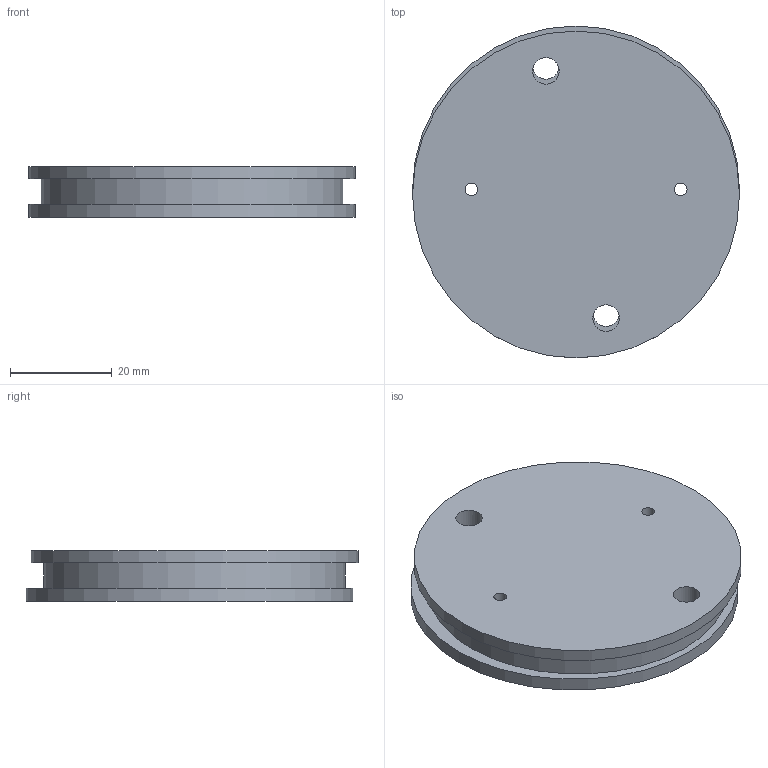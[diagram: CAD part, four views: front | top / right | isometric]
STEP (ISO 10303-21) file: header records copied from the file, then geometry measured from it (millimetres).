
FILE_DESCRIPTION(/* description */ (''),/* implementation_level */ '2;1');
FILE_NAME(/* name */ 'MotorSide OuterCoupler.step',/* time_stamp */ '2024-08-31T16:26:17-04:00',/* author */ (''),/* organization */ (''),/* preprocessor_version */ 'ST-DEVELOPER v20',/* originating_system */ 'Autodesk Translation Framework v13.14.0.145',/* authorisation */ '');
FILE_SCHEMA (('AUTOMOTIVE_DESIGN { 1 0 10303 214 3 1 1 }'));
Length unit declared in the file: millimetre
Products named in the file (1): Servo End Dimensions REPRINT
Bounding box: 64.25 x 65.25 x 10 mm (x, y, z)
Volume: 27584.4 mm3; surface area: 10133.7 mm2
Topology: 1 solids, 1 shells, 29 faces, 66 edges, 42 vertices
Faces by surface type: plane 15, cylinder 12, cone 2
Full cylindrical faces by diameter (mm): 2.5 x2, 5.22 x4, 13.5 x1, 59.25 x1, 64.25 x2
Entity records: 879 total; most frequent: DIRECTION 164, CARTESIAN_POINT 138, ORIENTED_EDGE 132, AXIS2_PLACEMENT_3D 68, EDGE_CURVE 66, VERTEX_POINT 42, EDGE_LOOP 40, CIRCLE 38
